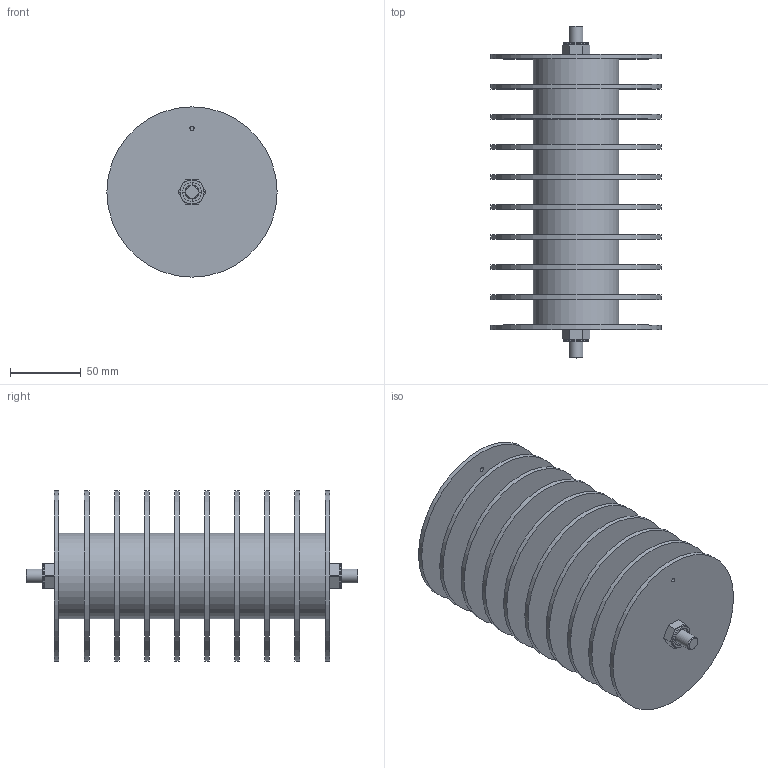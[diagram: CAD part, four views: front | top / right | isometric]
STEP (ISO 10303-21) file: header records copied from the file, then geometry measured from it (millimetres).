
FILE_DESCRIPTION(/* description */ (''),/* implementation_level */ '2;1');
FILE_NAME(/* name */ 'MGR-10.step',/* time_stamp */ '2023-06-28T15:40:51+09:00',/* author */ (''),/* organization */ (''),/* preprocessor_version */ 'ST-DEVELOPER v19.2',/* originating_system */ 'Autodesk Translation Framework v12.6.0.85',/* authorisation */ '');
FILE_SCHEMA (('AUTOMOTIVE_DESIGN { 1 0 10303 214 3 1 1 }'));
Length unit declared in the file: millimetre
Products named in the file (4): MGR-10_18759-1; M10x150L; UNUTZ10; LBNR10 v1(ミラー)
Assembly tree (3 placements, depth 2):
  MGR-10_18759-1
    M10x150L
    UNUTZ10
    LBNR10 v1(ミラー)
Bounding box: 120 x 234 x 120 mm (x, y, z)
Volume: 831578.1 mm3; surface area: 233130 mm2
Topology: 4 solids, 4 shells, 135 faces, 283 edges, 174 vertices
Faces by surface type: plane 58, cylinder 45, cone 30, torus 2
Full cylindrical faces by diameter (mm): 3 x2, 8.376 x2, 9.85 x1, 10.5 x1, 13.5 x2, 17 x2, 60.5 x9, 120 x10
Entity records: 3705 total; most frequent: CARTESIAN_POINT 695, DIRECTION 655, ORIENTED_EDGE 566, EDGE_CURVE 283, AXIS2_PLACEMENT_3D 278, VERTEX_POINT 174, EDGE_LOOP 163, CIRCLE 136
